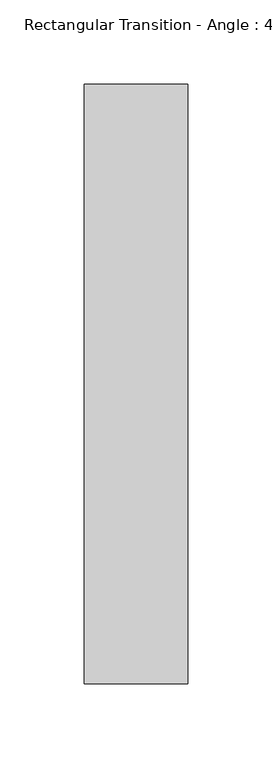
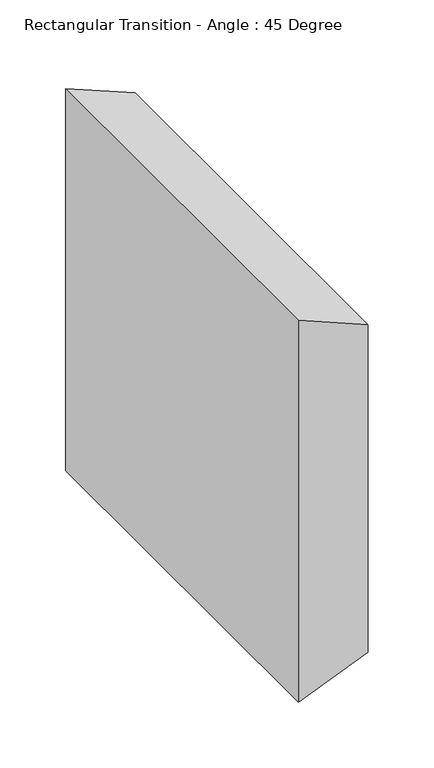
"""IFC4 building model written with IfcOpenShell, lengths in millimetres: duct fitting geometry, Rectangular Transition - Angle : 45 Degree."""

from ifc_helpers import new_model, si_unit, frame, origin, place, context, project, spatial, polyline, outline, extrude, source, transform, mapped, element, save


def rectangular_transition_angle_45_degree_4f949d70(model_context):
    return source(origin(), model_context, "Body", "SweptSolid", [
        extrude(outline(polyline([(177.8, 0.0), (-177.8, 0.0), (-152.4, 61.3210245), (152.4, 61.3210245), (177.8, 0.0)])), frame((0.0, -177.8, 0.0), z_axis=(0.0, 1.0, 0.0), x_axis=(0.0, 0.0, 1.0)), (0.0, 0.0, 1.0), 355.6),
    ])


if __name__ == "__main__":
    model = new_model("IFC4")
    model_context = context("Model", 3, world=origin())
    ifc_project = project(units=[si_unit("LENGTHUNIT", "METRE", prefix="MILLI")], contexts=[model_context])
    site = spatial("IfcSite", under=ifc_project)
    building = spatial("IfcBuilding", under=site)
    placement = place(None, origin())
    rectangular_transition_angle_45_degree_shape = rectangular_transition_angle_45_degree_4f949d70(model_context)
    element("IfcDuctFitting", 1, ObjectType="Rectangular Transition - Angle : 45 Degree", at=placement, inside=building, context=model_context, shape_type="MappedRepresentation", body=[
        mapped(rectangular_transition_angle_45_degree_shape, transform((0.0, 0.0, 0.0), x_axis=(1.0, 0.0, 0.0), y_axis=(0.0, 1.0, 0.0), z_axis=(0.0, 0.0, 1.0))),
    ])
    save(model, "model.ifc")
